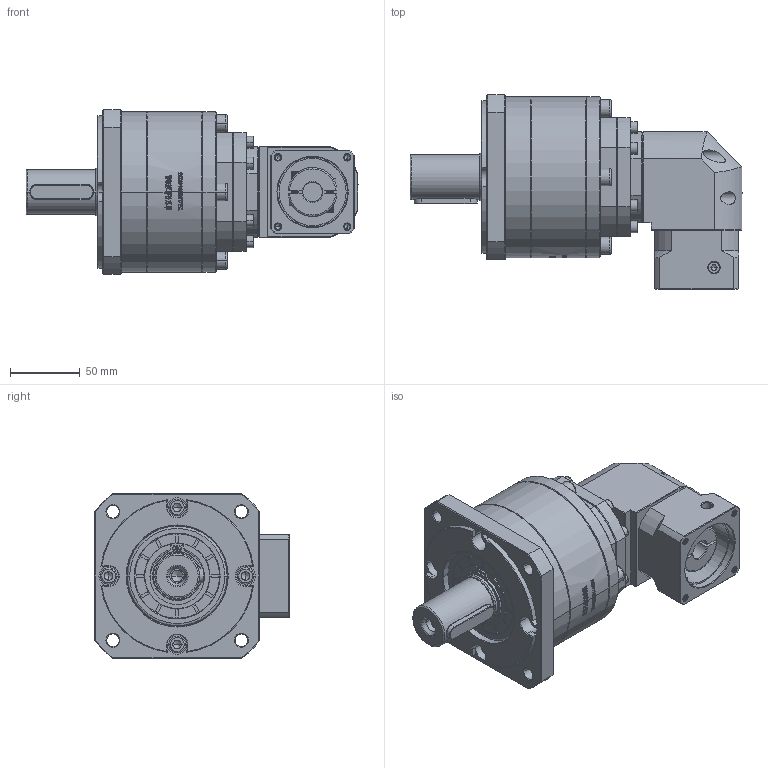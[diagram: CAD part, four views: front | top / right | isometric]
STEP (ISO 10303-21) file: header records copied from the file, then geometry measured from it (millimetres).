
FILE_DESCRIPTION (( 'STEP AP214' ), '1' );
FILE_NAME ('ZFR120A-D32-L3-14-50-70-M5.step', '2023-03-08T14:54:39', ( '' ), ( 'Microsoft' ), 'SwSTEP 2.0', 'SolidWorks 2016', '' );
FILE_SCHEMA (( 'AUTOMOTIVE_DESIGN' ));
Length unit declared in the file: millimetre
Products named in the file (1): ZFR120A-D32-L3-14-50-70-M5
Bounding box: 237.5 x 139.2 x 118 mm (x, y, z)
Volume: 1482308.9 mm3; surface area: 140142.3 mm2
Topology: 6 solids, 6 shells, 3044 faces, 8059 edges, 5171 vertices
Faces by surface type: plane 1595, bspline 625, cylinder 464, cone 347, torus 13
Entity records: 162516 total; most frequent: CARTESIAN_POINT 59531, ORIENTED_EDGE 16010, DIRECTION 11864, EDGE_CURVE 8005, VERTEX_POINT 5171, VECTOR 5012, LINE 5012, AXIS2_PLACEMENT_3D 3426
